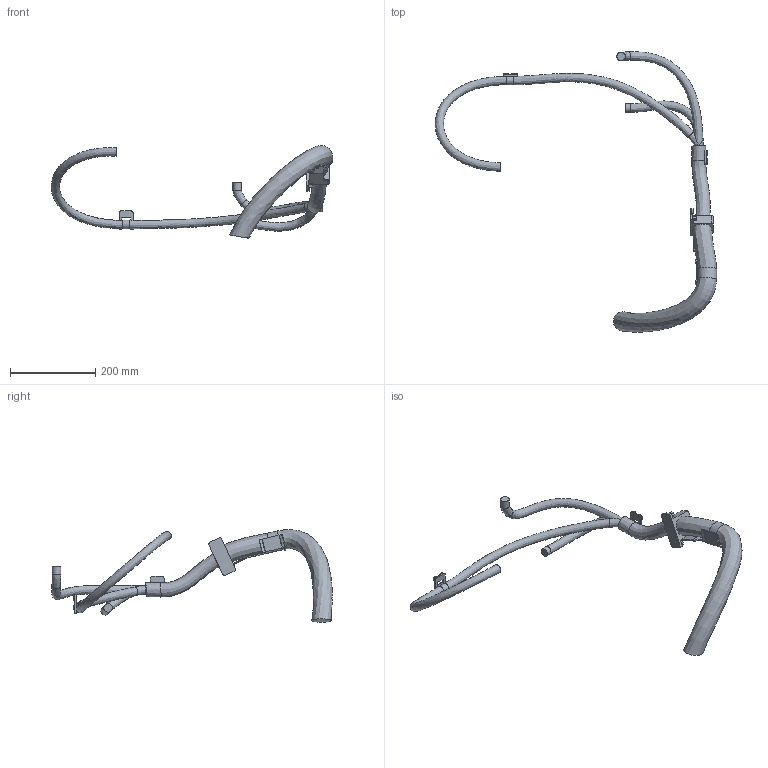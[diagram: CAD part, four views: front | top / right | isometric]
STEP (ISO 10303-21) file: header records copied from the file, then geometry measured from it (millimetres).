
FILE_DESCRIPTION (( 'STEP AP214' ), '1' );
FILE_NAME ('IRB6740_240kg-320_OC_00_LINK03m_CABLE.step', '2026-05-13T05:03:18', ( '' ), ( '' ), 'SwSTEP 2.0', 'SolidWorks 2024', '' );
FILE_SCHEMA (( 'AUTOMOTIVE_DESIGN' ));
Length unit declared in the file: millimetre
Products named in the file (1): IRB6740_240kg-320_OC_00_LINK03m_CABLE
Bounding box: 660.92 x 657.95 x 217.3 mm (x, y, z)
Volume: 1458626.2 mm3; surface area: 208626 mm2
Topology: 1 solids, 1 shells, 198 faces, 523 edges, 331 vertices
Faces by surface type: plane 119, cylinder 69, bspline 10
Full cylindrical faces by diameter (mm): 12 x6, 20 x3
Entity records: 10717 total; most frequent: CARTESIAN_POINT 3826, ORIENTED_EDGE 982, DIRECTION 943, EDGE_CURVE 491, AXIS2_PLACEMENT_3D 322, VERTEX_POINT 319, LINE 299, VECTOR 299
